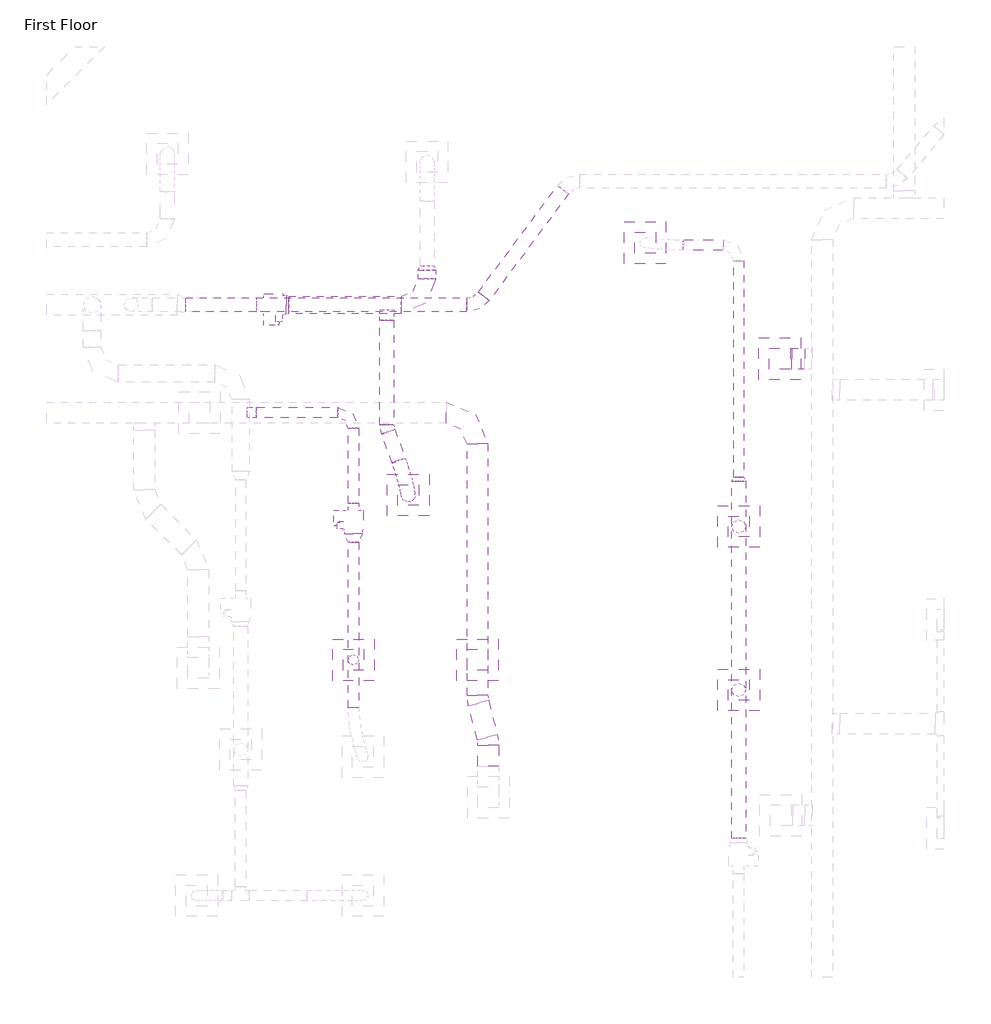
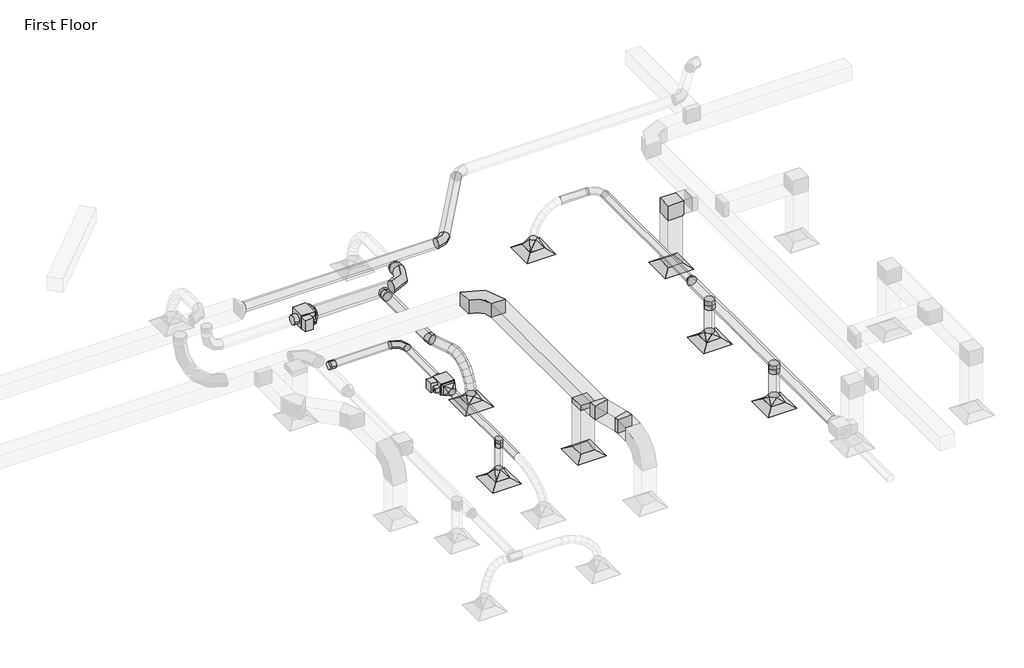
# One storey, part 24 of 61: 23 duct fittings, 22 duct segments, 7 air terminals, 2 proxies.
"""IFC4 building model written with IfcOpenShell, lengths in millimetres."""

from ifc_helpers import new_model, si_unit, point, frame, frame_2d, origin, place, context, project, spatial, polyline, circle_curve, ellipse_curve, trimmed, segment, composite_curve, outline, extrude, transform, mapped, element, save
from ifc_brep_helpers import plane_surface, cylinder_surface, advanced_brep
from components import m_exhaust_grill_er_600_x_600_face_300_x_300_connection_ff221211, m_vav_unit_single_duct_150_mm_ffdab17b, m_vav_unit_single_duct_200_mm_f9143229, m_rectangular_elbow_mitered_standard_8eee5933, m_rectangular_elbow_radius_1_5_w_86011e9f, m_rectangular_elbow_radius_1_5_w_669d0619, m_rectangular_takeoff_standard_c00386d1, m_rectangular_to_round_transition_angle_45_degree_8f201c83, m_rectangular_to_round_transition_angle_45_degree_66d46ab7, m_rectangular_to_round_transition_angle_45_degree_60daae35, m_rectangular_to_round_transition_angle_45_degree_2367f443, m_round_elbow_1_5_d_2e586196, m_round_elbow_1_5_d_4a9a621c, m_round_elbow_1_5_d_4faea411, m_round_elbow_1_5_d_a73345fc, m_round_takeoff_standard_2adb3d06, m_round_takeoff_standard_c62ca294, m_round_takeoff_standard_f7a00ffe, m_round_takeoff_standard_f13bc850, m_round_transition_angle_45_degree_6d7b59ce, m_round_transition_angle_45_degree_7939cf24

model = new_model("IFC4")

# Units and contexts
model_context = context("Model", 3, world=origin())
ifc_project = project(units=[si_unit("LENGTHUNIT", "METRE", prefix="MILLI")], contexts=[model_context])

# Site, building, storey
site = spatial("IfcSite", under=ifc_project)
building = spatial("IfcBuilding", under=site)
storey = spatial("IfcBuildingStorey", under=building, Name="First Floor", Elevation=0.0)

# Air terminals
placement = place(None, origin())
m_exhaust_grill_er_600_x_600_face_300_x_300_connection_shape = m_exhaust_grill_er_600_x_600_face_300_x_300_connection_ff221211(model_context)
element("IfcAirTerminal", 1, ObjectType="M_Return Register : RR-600 x 600 Face 300 x 300 Connection", at=placement, inside=storey, context=model_context, shape_type="MappedRepresentation", body=[
    mapped(m_exhaust_grill_er_600_x_600_face_300_x_300_connection_shape, transform((-16278.0820731, 22304.5020999, 2680.0), x_axis=(1.0, 0.0, 0.0), y_axis=(0.0, 1.0, 0.0), z_axis=(0.0, 0.0, 1.0))),
])
element("IfcAirTerminal", 2, ObjectType="M_Return Register : RR-600 x 600 Face 300 x 300 Connection", at=placement, inside=storey, context=model_context, shape_type="MappedRepresentation", body=[
    mapped(m_exhaust_grill_er_600_x_600_face_300_x_300_connection_shape, transform((-20628.0902372, 17971.044626, 2680.0), x_axis=(1.0, 0.0, 0.0), y_axis=(0.0, 1.0, 0.0), z_axis=(0.0, 0.0, 1.0))),
])
element("IfcAirTerminal", 3, ObjectType="M_Supply Diffuser : SD-600 x 600 Face 300 x 300 Connection", at=placement, inside=storey, context=model_context, shape_type="MappedRepresentation", body=[
    mapped(m_exhaust_grill_er_600_x_600_face_300_x_300_connection_shape, transform((-16867.9125198, 19890.025237, 2680.0), x_axis=(1.0, 0.0, 0.0), y_axis=(0.0, 1.0, 0.0), z_axis=(0.0, 0.0, 1.0))),
])
element("IfcAirTerminal", 4, ObjectType="M_Supply Diffuser : SD-600 x 600 Face 300 x 300 Connection", at=placement, inside=storey, context=model_context, shape_type="MappedRepresentation", body=[
    mapped(m_exhaust_grill_er_600_x_600_face_300_x_300_connection_shape, transform((-16867.9125198, 17538.0591456, 2680.0), x_axis=(1.0, 0.0, 0.0), y_axis=(0.0, 1.0, 0.0), z_axis=(0.0, 0.0, 1.0))),
])
element("IfcAirTerminal", 5, ObjectType="M_Supply Diffuser : SD-600 x 600 Face 300 x 300 Connection", at=placement, inside=storey, context=model_context, shape_type="MappedRepresentation", body=[
    mapped(m_exhaust_grill_er_600_x_600_face_300_x_300_connection_shape, transform((-18215.7086358, 23974.6354374, 2680.0), x_axis=(1.0, 0.0, 0.0), y_axis=(0.0, 1.0, 0.0), z_axis=(0.0, 0.0, 1.0))),
])
element("IfcAirTerminal", 6, ObjectType="M_Supply Diffuser : SD-600 x 600 Face 300 x 300 Connection", at=placement, inside=storey, context=model_context, shape_type="MappedRepresentation", body=[
    mapped(m_exhaust_grill_er_600_x_600_face_300_x_300_connection_shape, transform((-21623.6864926, 20342.9283714, 2680.0), x_axis=(1.0, 0.0, 0.0), y_axis=(0.0, 1.0, 0.0), z_axis=(0.0, 0.0, 1.0))),
])
element("IfcAirTerminal", 7, ObjectType="M_Supply Diffuser : SD-600 x 600 Face 300 x 300 Connection", at=placement, inside=storey, context=model_context, shape_type="MappedRepresentation", body=[
    mapped(m_exhaust_grill_er_600_x_600_face_300_x_300_connection_shape, transform((-22412.4486857, 17971.044626, 2680.0), x_axis=(1.0, 0.0, 0.0), y_axis=(0.0, 1.0, 0.0), z_axis=(0.0, 0.0, 1.0))),
])

# Proxies
m_vav_unit_single_duct_150_mm_shape = m_vav_unit_single_duct_150_mm_ffdab17b(model_context)
element("IfcBuildingElementProxy", 8, Name="M_VAV Unit - Single Duct : 150 mm", ObjectType="M_VAV Unit - Single Duct : 150 mm", at=placement, inside=storey, context=model_context, shape_type="MappedRepresentation", body=[
    mapped(m_vav_unit_single_duct_150_mm_shape, transform((-22412.4486857, 20126.0725928, 3500.0), x_axis=(0.0, -1.0000000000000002, 0.0), y_axis=(1.0000000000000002, 0.0, 0.0), z_axis=(0.0, 0.0, 1.0))),
])
m_vav_unit_single_duct_200_mm_shape = m_vav_unit_single_duct_200_mm_f9143229(model_context)
element("IfcBuildingElementProxy", 9, Name="M_VAV Unit - Single Duct : 200 mm", ObjectType="M_VAV Unit - Single Duct : 200 mm", at=placement, inside=storey, context=model_context, shape_type="MappedRepresentation", body=[
    mapped(m_vav_unit_single_duct_200_mm_shape, transform((-23705.4538316, 23079.8596581, 3500.0), x_axis=(1.0, 0.0, 0.0), y_axis=(0.0, 1.0, 0.0), z_axis=(0.0, 0.0, 1.0))),
])

# Duct fittings
m_rectangular_elbow_mitered_standard_shape = m_rectangular_elbow_mitered_standard_8eee5933(model_context)
element("IfcDuctFitting", 10, ObjectType="M_Rectangular Elbow - Mitered : Standard", at=placement, inside=storey, context=model_context, shape_type="MappedRepresentation", body=[
    mapped(m_rectangular_elbow_mitered_standard_shape, transform((-16278.0820731, 22304.5020999, 4000.0), x_axis=(0.0, 0.0, 1.0), y_axis=(1.0, 0.0, 0.0), z_axis=(0.0, 1.0, 0.0))),
])
m_rectangular_elbow_radius_1_5_w_shape = m_rectangular_elbow_radius_1_5_w_86011e9f(model_context)
element("IfcDuctFitting", 11, ObjectType="M_Rectangular Elbow - Radius : 1.5 W", at=placement, inside=storey, context=model_context, shape_type="MappedRepresentation", body=[
    mapped(m_rectangular_elbow_radius_1_5_w_shape, transform((-20628.0902372, 21527.5562922, 4000.0), x_axis=(0.0, 1.0, 0.0), y_axis=(-1.0, 0.0, 0.0), z_axis=(0.0, 0.0, 1.0))),
])
m_rectangular_elbow_radius_1_5_w_2_shape = m_rectangular_elbow_radius_1_5_w_669d0619(model_context)
element("IfcDuctFitting", 12, ObjectType="M_Rectangular Elbow - Radius : 1.5 W", at=placement, inside=storey, context=model_context, shape_type="MappedRepresentation", body=[
    mapped(m_rectangular_elbow_radius_1_5_w_2_shape, transform((-20470.7099363, 16801.4557159, 4000.0), x_axis=(0.0, 1.0, 0.0), y_axis=(-1.0, 0.0, 0.0), z_axis=(0.0, 0.0, 1.0))),
])
element("IfcDuctFitting", 13, ObjectType="M_Rectangular Elbow - Radius : 1.5 W", at=placement, inside=storey, context=model_context, shape_type="MappedRepresentation", body=[
    mapped(m_rectangular_elbow_radius_1_5_w_2_shape, transform((-20628.0902372, 17404.9884843, 4000.0), x_axis=(0.0, -1.0, 0.0), y_axis=(1.0, 0.0, 0.0), z_axis=(0.0, 0.0, 1.0))),
])
m_rectangular_takeoff_standard_shape = m_rectangular_takeoff_standard_c00386d1(model_context)
element("IfcDuctFitting", 14, ObjectType="M_Rectangular Takeoff : Standard", at=placement, inside=storey, context=model_context, shape_type="MappedRepresentation", body=[
    mapped(m_rectangular_takeoff_standard_shape, transform((-20628.0902372, 17971.044626, 3850.0), x_axis=(0.0, 0.0, -1.0), y_axis=(-1.0, 0.0, 0.0), z_axis=(0.0, 1.0, 0.0))),
])
m_rectangular_to_round_transition_angle_45_degree_shape = m_rectangular_to_round_transition_angle_45_degree_8f201c83(model_context)
element("IfcDuctFitting", 15, ObjectType="M_Rectangular to Round Transition - Angle : 45 Degree", at=placement, inside=storey, context=model_context, shape_type="MappedRepresentation", body=[
    mapped(m_rectangular_to_round_transition_angle_45_degree_shape, transform((-18215.7086358, 23974.6354374, 2781.6), x_axis=(0.0, 0.0, 1.0), y_axis=(1.0, 0.0, 0.0), z_axis=(0.0, 1.0, 0.0))),
])
element("IfcDuctFitting", 16, ObjectType="M_Rectangular to Round Transition - Angle : 45 Degree", at=placement, inside=storey, context=model_context, shape_type="MappedRepresentation", body=[
    mapped(m_rectangular_to_round_transition_angle_45_degree_shape, transform((-22412.4486857, 17971.044626, 2781.6), x_axis=(0.0, 0.0, 1.0), y_axis=(-1.0, 0.0, 0.0), z_axis=(0.0, -1.0, 0.0))),
])
m_rectangular_to_round_transition_angle_45_degree_2_shape = m_rectangular_to_round_transition_angle_45_degree_66d46ab7(model_context)
element("IfcDuctFitting", 17, ObjectType="M_Rectangular to Round Transition - Angle : 45 Degree", at=placement, inside=storey, context=model_context, shape_type="MappedRepresentation", body=[
    mapped(m_rectangular_to_round_transition_angle_45_degree_2_shape, transform((-22412.4486857, 19783.2725928, 3619.05), x_axis=(0.0, -1.0, 0.0), y_axis=(1.0, 0.0, 0.0), z_axis=(0.0, 0.0, 1.0))),
])
m_rectangular_to_round_transition_angle_45_degree_3_shape = m_rectangular_to_round_transition_angle_45_degree_60daae35(model_context)
element("IfcDuctFitting", 18, ObjectType="M_Rectangular to Round Transition - Angle : 45 Degree", at=placement, inside=storey, context=model_context, shape_type="MappedRepresentation", body=[
    mapped(m_rectangular_to_round_transition_angle_45_degree_3_shape, transform((-16867.9125198, 19890.025237, 2781.6), x_axis=(0.0, 0.0, 1.0), y_axis=(-1.0, 0.0, 0.0), z_axis=(0.0, -1.0, 0.0))),
])
element("IfcDuctFitting", 19, ObjectType="M_Rectangular to Round Transition - Angle : 45 Degree", at=placement, inside=storey, context=model_context, shape_type="MappedRepresentation", body=[
    mapped(m_rectangular_to_round_transition_angle_45_degree_3_shape, transform((-16867.9125198, 17538.0591456, 2781.6), x_axis=(0.0, 0.0, 1.0), y_axis=(-1.0, 0.0, 0.0), z_axis=(0.0, -1.0, 0.0))),
])
element("IfcDuctFitting", 20, ObjectType="M_Rectangular to Round Transition - Angle : 45 Degree", at=placement, inside=storey, context=model_context, shape_type="MappedRepresentation", body=[
    mapped(m_rectangular_to_round_transition_angle_45_degree_3_shape, transform((-21623.6864926, 20342.9283714, 2781.6), x_axis=(0.0, 0.0, 1.0), y_axis=(1.0, 0.0, 0.0), z_axis=(0.0, 1.0, 0.0))),
])
m_rectangular_to_round_transition_angle_45_degree_4_shape = m_rectangular_to_round_transition_angle_45_degree_2367f443(model_context)
element("IfcDuctFitting", 21, ObjectType="M_Rectangular to Round Transition - Angle : 45 Degree", at=placement, inside=storey, context=model_context, shape_type="MappedRepresentation", body=[
    mapped(m_rectangular_to_round_transition_angle_45_degree_4_shape, transform((-23375.6538316, 23079.8596581, 3644.05), x_axis=(1.0, 0.0, 0.0), y_axis=(0.0, 1.0, 0.0), z_axis=(0.0, 0.0, 1.0))),
])
m_round_elbow_1_5_d_shape = m_round_elbow_1_5_d_2e586196(model_context)
element("IfcDuctFitting", 22, ObjectType="M_Round Elbow : 1.5 D", at=placement, inside=storey, context=model_context, shape_type="MappedRepresentation", body=[
    mapped(m_round_elbow_1_5_d_shape, transform((-22411.5986857, 21528.2490504, 3609.5), x_axis=(0.0, 0.9999999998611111, -1.6666666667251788e-05), y_axis=(-1.0, 0.0, 0.0), z_axis=(0.0, 1.6666666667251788e-05, 0.9999999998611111))),
])
m_round_elbow_1_5_d_2_shape = m_round_elbow_1_5_d_4a9a621c(model_context)
element("IfcDuctFitting", 23, ObjectType="M_Round Elbow : 1.5 D", at=placement, inside=storey, context=model_context, shape_type="MappedRepresentation", body=[
    mapped(m_round_elbow_1_5_d_2_shape, transform((-21352.0106075, 23079.8596581, 3644.1), x_axis=(1.0, 0.0, 0.0), y_axis=(0.0, 1.0, 0.0), z_axis=(0.0, 0.0, 1.0))),
])
m_round_elbow_1_5_d_3_shape = m_round_elbow_1_5_d_4faea411(model_context)
element("IfcDuctFitting", 24, ObjectType="M_Round Elbow : 1.5 D", at=placement, inside=storey, context=model_context, shape_type="MappedRepresentation", body=[
    mapped(m_round_elbow_1_5_d_3_shape, transform((-21930.2677657, 21304.1237269, 3644.1), x_axis=(0.0, -1.0, 0.0), y_axis=(1.0, 0.0, 0.0), z_axis=(0.0, 0.0, 1.0))),
])
m_round_elbow_1_5_d_4_shape = m_round_elbow_1_5_d_a73345fc(model_context)
element("IfcDuctFitting", 25, ObjectType="M_Round Elbow : 1.5 D", at=placement, inside=storey, context=model_context, shape_type="MappedRepresentation", body=[
    mapped(m_round_elbow_1_5_d_4_shape, transform((-20628.0902372, 23080.5096581, 4279.0), x_axis=(1.0, 0.0, 0.0), y_axis=(0.0, 0.9999999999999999, 0.0), z_axis=(0.0, 0.0, 0.9999999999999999))),
])
m_round_takeoff_standard_shape = m_round_takeoff_standard_2adb3d06(model_context)
element("IfcDuctFitting", 26, ObjectType="M_Round Takeoff : Standard", at=placement, inside=storey, context=model_context, shape_type="MappedRepresentation", body=[
    mapped(m_round_takeoff_standard_shape, transform((-21930.2677657, 22954.8596581, 3644.1), x_axis=(0.0, -1.0, 0.0), y_axis=(-1.0, 0.0, 0.0), z_axis=(0.0, 0.0, -1.0))),
])
m_round_takeoff_standard_2_shape = m_round_takeoff_standard_c62ca294(model_context)
element("IfcDuctFitting", 27, ObjectType="M_Round Takeoff : Standard", at=placement, inside=storey, context=model_context, shape_type="MappedRepresentation", body=[
    mapped(m_round_takeoff_standard_2_shape, transform((-16867.9125198, 19890.025237, 3519.1), x_axis=(0.0, 0.0, -1.0), y_axis=(1.0, 0.0, 0.0), z_axis=(0.0, -1.0, 0.0))),
])
element("IfcDuctFitting", 28, ObjectType="M_Round Takeoff : Standard", at=placement, inside=storey, context=model_context, shape_type="MappedRepresentation", body=[
    mapped(m_round_takeoff_standard_2_shape, transform((-16867.9125198, 17538.0591456, 3519.1), x_axis=(0.0, 0.0, -1.0), y_axis=(1.0, 0.0, 0.0), z_axis=(0.0, -1.0, 0.0))),
])
m_round_takeoff_standard_3_shape = m_round_takeoff_standard_f7a00ffe(model_context)
element("IfcDuctFitting", 29, ObjectType="M_Round Takeoff : Standard", at=placement, inside=storey, context=model_context, shape_type="MappedRepresentation", body=[
    mapped(m_round_takeoff_standard_3_shape, transform((-22412.4486857, 17971.044626, 3544.1), x_axis=(0.0, 0.0, -1.0), y_axis=(1.0, 0.0, 0.0), z_axis=(0.0, -1.0, 0.0))),
])
m_round_takeoff_standard_4_shape = m_round_takeoff_standard_f13bc850(model_context)
element("IfcDuctFitting", 30, ObjectType="M_Round Takeoff : Standard", at=placement, inside=storey, context=model_context, shape_type="MappedRepresentation", body=[
    mapped(m_round_takeoff_standard_4_shape, transform((-23909.040372, 21528.2490504, 3609.5), x_axis=(1.0, 0.0, 0.0), y_axis=(0.0, -1.0, 0.0), z_axis=(0.0, 0.0, -1.0))),
])
m_round_transition_angle_45_degree_shape = m_round_transition_angle_45_degree_6d7b59ce(model_context)
element("IfcDuctFitting", 31, ObjectType="M_Round Transition - Angle : 45 Degree", at=placement, inside=storey, context=model_context, shape_type="MappedRepresentation", body=[
    mapped(m_round_transition_angle_45_degree_shape, transform((-16867.9125198, 20541.391812, 3619.1), x_axis=(0.0, 1.0, 0.0), y_axis=(-1.0, 0.0, 0.0), z_axis=(0.0, 0.0, 1.0))),
])
m_round_transition_angle_45_degree_2_shape = m_round_transition_angle_45_degree_7939cf24(model_context)
element("IfcDuctFitting", 32, ObjectType="M_Round Transition - Angle : 45 Degree", at=placement, inside=storey, context=model_context, shape_type="MappedRepresentation", body=[
    mapped(m_round_transition_angle_45_degree_2_shape, transform((-21352.0106075, 23579.8596581, 3644.1), x_axis=(0.0, 1.0, 0.0), y_axis=(-1.0, 0.0, 0.0), z_axis=(0.0, 0.0, 1.0))),
])

# Duct segments
element("IfcDuctSegment", 33, ObjectType="Flex - Round", at=placement, inside=storey, context=model_context, shape_type="AdvancedBrep", body=[
    advanced_brep(
    [(-21664.7474064, 20866.9547103, 3644.1), (-21765.084631, 20851.1302652, 3545.7027018), (-21853.7679817, 20801.6001226, 3644.1), (-21753.4307571, 20817.4245678, 3742.4972982), (-21629.0169093, 20763.6138531, 3624.2845455), (-21735.0743448, 20764.3335803, 3529.0595675), (-21818.9275207, 20700.8334557, 3624.7781426), (-21712.8700852, 20700.1137285, 3720.0031206), (-21527.822112, 20371.3720632, 2901.3222829), (-21595.2584046, 20247.3987434, 2910.4306527), (-21719.5508732, 20314.4846796, 2903.2990733), (-21652.1145806, 20438.4579994, 2894.1907036), (-21599.2349399, 20668.0477873, 3569.0317132), (-21713.4582808, 20694.970733, 3488.9564856), (-21790.3376687, 20609.0927236, 3571.7369795), (-21676.1143278, 20582.1697779, 3651.8122071), (-21575.442267, 20583.4163711, 3486.1823142), (-21694.3063326, 20626.8465461, 3422.2667362), (-21767.0978254, 20526.4277427, 3490.8126102), (-21648.2337597, 20482.9975677, 3554.7281882), (-21557.066167, 20510.9857139, 3382.833962), (-21678.4801334, 20564.4664974, 3333.2591874), (-21748.9208828, 20454.782078, 3388.5843317), (-21627.5069163, 20401.3012945, 3438.1591062), (-21543.5864143, 20452.1054141, 3265.8694143), (-21666.4457784, 20511.8997741, 3228.8364343), (-21735.4672349, 20396.0158054, 3271.8462967), (-21612.6078708, 20336.2214454, 3308.8792767), (-21534.5265922, 20408.2324581, 3142.1619034), (-21658.238916, 20472.1573476, 3116.7756772), (-21726.3534671, 20351.8816128, 3147.4021834), (-21602.6411433, 20287.9567233, 3172.7884096), (-21529.4297563, 20380.8680257, 3018.6684655), (-21653.636134, 20447.4454438, 3005.2528834), (-21721.1766921, 20324.0879949, 3021.9718662), (-21596.9703145, 20257.5105767, 3035.3874483)],
    [
        (0, 1, circle_curve(frame((-21759.257694, 20834.2774165, 3644.1), z_axis=(-0.3215357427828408, 0.929955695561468, 0.1783176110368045), x_axis=(0.9451028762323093, 0.3267729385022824, 0.0)), 100.0)),
        (1, 2, circle_curve(frame((-21759.257694, 20834.2774165, 3644.1), z_axis=(-0.3215357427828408, 0.929955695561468, 0.1783176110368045), x_axis=(0.9451028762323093, 0.3267729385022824, 0.0)), 100.0)),
        (2, 3, circle_curve(frame((-21759.257694, 20834.2774165, 3644.1), z_axis=(-0.3215357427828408, 0.929955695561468, 0.1783176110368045), x_axis=(0.9451028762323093, 0.3267729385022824, 0.0)), 100.0)),
        (3, 0, circle_curve(frame((-21759.257694, 20834.2774165, 3644.1), z_axis=(-0.3215357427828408, 0.929955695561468, 0.1783176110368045), x_axis=(0.9451028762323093, 0.3267729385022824, 0.0)), 100.0)),
        (0, 4),
        (4, 5, ellipse_curve(frame((-21723.972215, 20732.2236544, 3624.5313441), z_axis=(-0.2949246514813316, 0.8947823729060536, 0.33523716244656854), x_axis=(-0.18791958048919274, 0.2896755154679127, -0.9384957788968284)), 101.3463384, 100.0)),
        (5, 1),
        (5, 6, ellipse_curve(frame((-21723.972215, 20732.2236544, 3624.5313441), z_axis=(-0.2949246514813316, 0.8947823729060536, 0.33523716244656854), x_axis=(-0.18791958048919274, 0.2896755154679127, -0.9384957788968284)), 101.3463384, 100.0)),
        (6, 2),
        (6, 7, ellipse_curve(frame((-21723.972215, 20732.2236544, 3624.5313441), z_axis=(-0.2949246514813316, 0.8947823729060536, 0.33523716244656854), x_axis=(-0.18791958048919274, 0.2896755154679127, -0.9384957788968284)), 101.3463384, 100.0)),
        (7, 3),
        (7, 4, ellipse_curve(frame((-21723.972215, 20732.2236544, 3624.5313441), z_axis=(-0.2949246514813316, 0.8947823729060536, 0.33523716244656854), x_axis=(-0.18791958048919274, 0.2896755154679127, -0.9384957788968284)), 101.3463384, 100.0)),
        (8, 9, circle_curve(frame((-21623.6864926, 20342.9283714, 2902.3106781), z_axis=(0.013654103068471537, -0.08065145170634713, -0.9966488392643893), x_axis=(0.9586438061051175, 0.2844369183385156, -0.009883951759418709)), 100.0)),
        (9, 10, circle_curve(frame((-21623.6864926, 20342.9283714, 2902.3106781), z_axis=(0.013654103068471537, -0.08065145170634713, -0.9966488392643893), x_axis=(0.9586438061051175, 0.2844369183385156, -0.009883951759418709)), 100.0)),
        (10, 11, circle_curve(frame((-21623.6864926, 20342.9283714, 2902.3106781), z_axis=(0.013654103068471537, -0.08065145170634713, -0.9966488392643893), x_axis=(0.9586438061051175, 0.2844369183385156, -0.009883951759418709)), 100.0)),
        (11, 8, circle_curve(frame((-21623.6864926, 20342.9283714, 2902.3106781), z_axis=(0.013654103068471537, -0.08065145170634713, -0.9966488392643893), x_axis=(0.9586438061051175, 0.2844369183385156, -0.009883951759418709)), 100.0)),
        (4, 12),
        (12, 13, ellipse_curve(frame((-21694.7863043, 20638.5702555, 3570.3843464), z_axis=(-0.2305521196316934, 0.7743722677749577, 0.5892311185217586), x_axis=(-0.2523258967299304, 0.5372535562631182, -0.8047920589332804)), 100.801641, 100.0)),
        (13, 5),
        (13, 14, ellipse_curve(frame((-21694.7863043, 20638.5702555, 3570.3843464), z_axis=(-0.2305521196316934, 0.7743722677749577, 0.5892311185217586), x_axis=(-0.2523258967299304, 0.5372535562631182, -0.8047920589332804)), 100.801641, 100.0)),
        (14, 6),
        (14, 15, ellipse_curve(frame((-21694.7863043, 20638.5702555, 3570.3843464), z_axis=(-0.2305521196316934, 0.7743722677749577, 0.5892311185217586), x_axis=(-0.2523258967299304, 0.5372535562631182, -0.8047920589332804)), 100.801641, 100.0)),
        (15, 7),
        (15, 12, ellipse_curve(frame((-21694.7863043, 20638.5702555, 3570.3843464), z_axis=(-0.2305521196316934, 0.7743722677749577, 0.5892311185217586), x_axis=(-0.2523258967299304, 0.5372535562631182, -0.8047920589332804)), 100.801641, 100.0)),
        (12, 16),
        (16, 17, ellipse_curve(frame((-21671.2700462, 20554.9220569, 3488.4974622), z_axis=(-0.17129444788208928, 0.6371291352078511, 0.7514816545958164), x_axis=(-0.27904543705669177, 0.7001469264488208, -0.6572122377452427)), 100.4517836, 100.0)),
        (17, 13),
        (17, 18, ellipse_curve(frame((-21671.2700462, 20554.9220569, 3488.4974622), z_axis=(-0.17129444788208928, 0.6371291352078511, 0.7514816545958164), x_axis=(-0.27904543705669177, 0.7001469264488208, -0.6572122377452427)), 100.4517836, 100.0)),
        (18, 14),
        (18, 19, ellipse_curve(frame((-21671.2700462, 20554.9220569, 3488.4974622), z_axis=(-0.17129444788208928, 0.6371291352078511, 0.7514816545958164), x_axis=(-0.27904543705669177, 0.7001469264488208, -0.6572122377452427)), 100.4517836, 100.0)),
        (19, 15),
        (19, 16, ellipse_curve(frame((-21671.2700462, 20554.9220569, 3488.4974622), z_axis=(-0.17129444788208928, 0.6371291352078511, 0.7514816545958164), x_axis=(-0.27904543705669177, 0.7001469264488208, -0.6572122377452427)), 100.4517836, 100.0)),
        (16, 20),
        (20, 21, ellipse_curve(frame((-21652.9935249, 20482.883896, 3385.7091468), z_axis=(-0.12358985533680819, 0.5090349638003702, 0.851826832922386), x_axis=(-0.2785376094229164, 0.8061036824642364, -0.5221241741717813)), 100.2812204, 100.0)),
        (21, 17),
        (21, 22, ellipse_curve(frame((-21652.9935249, 20482.883896, 3385.7091468), z_axis=(-0.12358985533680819, 0.5090349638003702, 0.851826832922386), x_axis=(-0.2785376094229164, 0.8061036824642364, -0.5221241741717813)), 100.2812204, 100.0)),
        (22, 18),
        (22, 23, ellipse_curve(frame((-21652.9935249, 20482.883896, 3385.7091468), z_axis=(-0.12358985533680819, 0.5090349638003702, 0.851826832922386), x_axis=(-0.2785376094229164, 0.8061036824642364, -0.5221241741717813)), 100.2812204, 100.0)),
        (23, 19),
        (23, 20, ellipse_curve(frame((-21652.9935249, 20482.883896, 3385.7091468), z_axis=(-0.12358985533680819, 0.5090349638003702, 0.851826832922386), x_axis=(-0.2785376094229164, 0.8061036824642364, -0.5221241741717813)), 100.2812204, 100.0)),
        (20, 24),
        (24, 25, ellipse_curve(frame((-21639.5268246, 20424.0606097, 3268.8578555), z_axis=(-0.08580877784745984, 0.3911897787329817, 0.9163009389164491), x_axis=(-0.25908982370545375, 0.8792899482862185, -0.3996519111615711)), 100.2101152, 100.0)),
        (25, 21),
        (25, 26, ellipse_curve(frame((-21639.5268246, 20424.0606097, 3268.8578555), z_axis=(-0.08580877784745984, 0.3911897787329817, 0.9163009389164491), x_axis=(-0.25908982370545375, 0.8792899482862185, -0.3996519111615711)), 100.2101152, 100.0)),
        (26, 22),
        (26, 27, ellipse_curve(frame((-21639.5268246, 20424.0606097, 3268.8578555), z_axis=(-0.08580877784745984, 0.3911897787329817, 0.9163009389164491), x_axis=(-0.25908982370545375, 0.8792899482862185, -0.3996519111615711)), 100.2101152, 100.0)),
        (27, 23),
        (27, 24, ellipse_curve(frame((-21639.5268246, 20424.0606097, 3268.8578555), z_axis=(-0.08580877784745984, 0.3911897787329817, 0.9163009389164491), x_axis=(-0.25908982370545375, 0.8792899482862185, -0.3996519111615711)), 100.2101152, 100.0)),
        (24, 28),
        (28, 29, ellipse_curve(frame((-21630.4400297, 20380.0570355, 3144.7820434), z_axis=(-0.05466911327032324, 0.27535621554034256, 0.959786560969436), x_axis=(-0.22736090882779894, 0.9325408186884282, -0.2804899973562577)), 100.1983492, 100.0)),
        (29, 25),
        (29, 30, ellipse_curve(frame((-21630.4400297, 20380.0570355, 3144.7820434), z_axis=(-0.05466911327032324, 0.27535621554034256, 0.959786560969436), x_axis=(-0.22736090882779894, 0.9325408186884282, -0.2804899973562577)), 100.1983492, 100.0)),
        (30, 26),
        (30, 31, ellipse_curve(frame((-21630.4400297, 20380.0570355, 3144.7820434), z_axis=(-0.05466911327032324, 0.27535621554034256, 0.959786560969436), x_axis=(-0.22736090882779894, 0.9325408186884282, -0.2804899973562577)), 100.1983492, 100.0)),
        (31, 27),
        (31, 28, ellipse_curve(frame((-21630.4400297, 20380.0570355, 3144.7820434), z_axis=(-0.05466911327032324, 0.27535621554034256, 0.959786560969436), x_axis=(-0.22736090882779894, 0.9325408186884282, -0.2804899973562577)), 100.1983492, 100.0)),
        (28, 32),
        (32, 33, ellipse_curve(frame((-21625.3032242, 20352.4780103, 3020.3201659), z_axis=(-0.027024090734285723, 0.14877072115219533, 0.9885023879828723), x_axis=(-0.19045778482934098, 0.9699831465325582, -0.15119036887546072)), 100.2448659, 100.0)),
        (33, 29),
        (33, 34, ellipse_curve(frame((-21625.3032242, 20352.4780103, 3020.3201659), z_axis=(-0.027024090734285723, 0.14877072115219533, 0.9885023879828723), x_axis=(-0.19045778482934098, 0.9699831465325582, -0.15119036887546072)), 100.2448659, 100.0)),
        (34, 30),
        (34, 35, ellipse_curve(frame((-21625.3032242, 20352.4780103, 3020.3201659), z_axis=(-0.027024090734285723, 0.14877072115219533, 0.9885023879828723), x_axis=(-0.19045778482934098, 0.9699831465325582, -0.15119036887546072)), 100.2448659, 100.0)),
        (35, 31),
        (35, 32, ellipse_curve(frame((-21625.3032242, 20352.4780103, 3020.3201659), z_axis=(-0.027024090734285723, 0.14877072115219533, 0.9885023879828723), x_axis=(-0.19045778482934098, 0.9699831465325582, -0.15119036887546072)), 100.2448659, 100.0)),
        (32, 8),
        (11, 33),
        (10, 34),
        (9, 35),
    ],
    [
        plane_surface(frame((-21759.257694, 20853.1091931, 3545.889185), z_axis=(-0.3215357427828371, 0.9299556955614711, 0.1783176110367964), x_axis=(0.9468974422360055, 0.31578287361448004, 0.06055089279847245))),
        cylinder_surface(frame((-21759.257694, 20834.2774165, 3644.1), z_axis=(-0.32153574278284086, 0.9299556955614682, 0.17831761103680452), x_axis=(0.9451028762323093, 0.3267729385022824, 0.0)), 100.0),
        plane_surface(frame((-21623.6864926, 20442.6025471, 2894.244781), z_axis=(0.013654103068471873, -0.08065145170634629, -0.9966488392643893), x_axis=(0.9999067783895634, 0.0011013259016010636, 0.013609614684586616))),
        cylinder_surface(frame((-21723.972215, 20732.2236544, 3624.5313441), z_axis=(-0.26047768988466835, 0.8358355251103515, 0.483249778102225), x_axis=(0.9531581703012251, 0.30233369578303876, -0.00915635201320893)), 100.0),
        cylinder_surface(frame((-21694.7863043, 20638.5702555, 3570.3843464), z_axis=(-0.19695954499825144, 0.700592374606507, 0.6858405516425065), x_axis=(0.9572947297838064, 0.2884399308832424, -0.019728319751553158)), 100.0),
        cylinder_surface(frame((-21671.2700462, 20554.9220569, 3488.4974622), z_axis=(-0.14408855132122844, 0.5679348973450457, 0.8103631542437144), x_axis=(0.958996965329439, 0.2821084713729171, -0.02719615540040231)), 100.0),
        cylinder_surface(frame((-21652.9935249, 20482.883896, 3385.7091468), z_axis=(-0.10239798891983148, 0.44728003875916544, 0.8885129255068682), x_axis=(0.9594701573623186, 0.28015951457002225, -0.030457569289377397)), 100.0),
        cylinder_surface(frame((-21639.5268246, 20424.0606097, 3268.8578555), z_axis=(-0.06885972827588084, 0.3334590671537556, 0.940246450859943), x_axis=(0.9593596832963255, 0.2806631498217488, -0.02927788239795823)), 100.0),
        cylinder_surface(frame((-21630.4400297, 20380.0570355, 3144.7820434), z_axis=(-0.040262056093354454, 0.2161631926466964, 0.975526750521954), x_axis=(0.9590026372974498, 0.28246151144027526, -0.023009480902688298)), 100.0),
        cylinder_surface(frame((-21625.3032242, 20352.4780103, 3020.3201659), z_axis=(-0.013654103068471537, 0.08065145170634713, 0.9966488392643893), x_axis=(0.9586438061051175, 0.2844369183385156, -0.009883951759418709)), 100.0),
    ],
    [
        (0, [[1, 2, 3, 4]]),
        (1, [[-1, 5, 6, 7]]),
        (1, [[-2, -7, 8, 9]]),
        (1, [[-3, -9, 10, 11]]),
        (1, [[-4, -11, 12, -5]]),
        (2, [[13, 14, 15, 16]]),
        (3, [[-6, 17, 18, 19]]),
        (3, [[-8, -19, 20, 21]]),
        (3, [[-10, -21, 22, 23]]),
        (3, [[-12, -23, 24, -17]]),
        (4, [[-18, 25, 26, 27]]),
        (4, [[-20, -27, 28, 29]]),
        (4, [[-22, -29, 30, 31]]),
        (4, [[-24, -31, 32, -25]]),
        (5, [[-26, 33, 34, 35]]),
        (5, [[-28, -35, 36, 37]]),
        (5, [[-30, -37, 38, 39]]),
        (5, [[-32, -39, 40, -33]]),
        (6, [[-34, 41, 42, 43]]),
        (6, [[-36, -43, 44, 45]]),
        (6, [[-38, -45, 46, 47]]),
        (6, [[-40, -47, 48, -41]]),
        (7, [[-42, 49, 50, 51]]),
        (7, [[-44, -51, 52, 53]]),
        (7, [[-46, -53, 54, 55]]),
        (7, [[-48, -55, 56, -49]]),
        (8, [[-50, 57, 58, 59]]),
        (8, [[-52, -59, 60, 61]]),
        (8, [[-54, -61, 62, 63]]),
        (8, [[-56, -63, 64, -57]]),
        (9, [[-58, 65, -16, 66]]),
        (9, [[-60, -66, -15, 67]]),
        (9, [[-62, -67, -14, 68]]),
        (9, [[-64, -68, -13, -65]]),
    ],
),
])
element("IfcDuctSegment", 34, ObjectType="Mitered Elbows / Taps", at=placement, inside=storey, context=model_context, shape_type="SweptSolid", body=[
    extrude(outline(polyline([(-16103.0820731, 22154.5020999), (-16103.0820731, 22454.5020999), (-15915.3877031, 22454.5020999), (-15915.3877031, 22154.5020999), (-16103.0820731, 22154.5020999)])), frame((0.0, 0.0, 3850.0), z_axis=(0.0, 0.0, 1.0), x_axis=(1.0, 0.0, 0.0)), (0.0, 0.0, 1.0), 300.0),
])
element("IfcDuctSegment", 35, ObjectType="Mitered Elbows / Taps", at=placement, inside=storey, context=model_context, shape_type="SweptSolid", body=[
    extrude(outline(polyline([(-16128.0820731, 22454.5020999), (-16128.0820731, 22154.5020999), (-16428.0820731, 22154.5020999), (-16428.0820731, 22454.5020999), (-16128.0820731, 22454.5020999)])), frame((0.0, 0.0, 2781.6), z_axis=(0.0, 0.0, 1.0), x_axis=(1.0, 0.0, 0.0)), (0.0, 0.0, 1.0), 1043.4),
])
element("IfcDuctSegment", 36, ObjectType="Radius Elbows / Taps", at=placement, inside=storey, context=model_context, shape_type="SweptSolid", body=[
    extrude(outline(polyline([(-20778.0902372, 21077.5562922), (-20478.0902372, 21077.5562922), (-20478.0902372, 17462.6957697), (-20778.0902372, 17462.6957697), (-20778.0902372, 21077.5562922)])), frame((0.0, 0.0, 3850.0), z_axis=(0.0, 0.0, 1.0), x_axis=(1.0, 0.0, 0.0)), (0.0, 0.0, 1.0), 300.0),
])
element("IfcDuctSegment", 37, ObjectType="Radius Elbows / Taps", at=placement, inside=storey, context=model_context, shape_type="SweptSolid", body=[
    extrude(outline(polyline([(-20340.124766, 16895.144798), (-20630.4173511, 16819.4466143), (-20758.6754074, 17311.2994022), (-20468.3828223, 17386.997586), (-20340.124766, 16895.144798)])), frame((0.0, 0.0, 3850.0), z_axis=(0.0, 0.0, 1.0), x_axis=(1.0, 0.0, 0.0)), (0.0, 0.0, 1.0), 300.0),
])
element("IfcDuctSegment", 38, ObjectType="Radius Elbows / Taps", at=placement, inside=storey, context=model_context, shape_type="SweptSolid", body=[
    extrude(outline(polyline([(-20320.7099363, 16443.554641), (-20620.7099363, 16443.554641), (-20620.7099363, 16743.7484305), (-20320.7099363, 16743.7484305), (-20320.7099363, 16443.554641)])), frame((0.0, 0.0, 3850.0), z_axis=(0.0, 0.0, 1.0), x_axis=(1.0, 0.0, 0.0)), (0.0, 0.0, 1.0), 300.0),
])
element("IfcDuctSegment", 39, ObjectType="Radius Elbows / Taps", at=placement, inside=storey, context=model_context, shape_type="SweptSolid", body=[
    extrude(outline(polyline([(-20478.0902372, 17821.044626), (-20778.0902372, 17821.044626), (-20778.0902372, 18121.044626), (-20478.0902372, 18121.044626), (-20478.0902372, 17821.044626)])), frame((0.0, 0.0, 2781.6), z_axis=(0.0, 0.0, 1.0), x_axis=(1.0, 0.0, 0.0)), (0.0, 0.0, 1.0), 968.4),
])
element("IfcDuctSegment", 40, ObjectType="Taps", at=placement, inside=storey, context=model_context, shape_type="SweptSolid", body=[
    extrude(outline(composite_curve([segment(trimmed(circle_curve(frame_2d((3619.1, -16867.9125198)), 100.0), [point((3619.1, -16767.9125198))], [point((3719.1, -16867.9125198))], False, "CARTESIAN"), True, "CONTINUOUS"), segment(trimmed(circle_curve(frame_2d((3619.1, -16867.9125198)), 100.0), [point((3719.1, -16867.9125198))], [point((3619.1, -16967.9125198))], False, "CARTESIAN"), True, "CONTINUOUS"), segment(trimmed(circle_curve(frame_2d((3619.1, -16867.9125198)), 100.0), [point((3619.1, -16967.9125198))], [point((3519.1, -16867.9125198))], False, "CARTESIAN"), True, "CONTINUOUS"), segment(trimmed(circle_curve(frame_2d((3619.1, -16867.9125198)), 100.0), [point((3519.1, -16867.9125198))], [point((3619.1, -16767.9125198))], False, "CARTESIAN"), True, "CONTINUOUS")], self_intersect=False)), frame((0.0, 15401.747151, 0.0), z_axis=(0.0, 1.0, 0.0), x_axis=(0.0, 0.0, 1.0)), (0.0, 0.0, 1.0), 5139.6446609),
])
element("IfcDuctSegment", 41, ObjectType="Taps", at=placement, inside=storey, context=model_context, shape_type="SweptSolid", body=[
    extrude(outline(composite_curve([segment(trimmed(circle_curve(frame_2d((3619.1, -16867.9125198)), 75.0), [point((3619.1, -16792.9125198))], [point((3694.1, -16867.9125198))], False, "CARTESIAN"), True, "CONTINUOUS"), segment(trimmed(circle_curve(frame_2d((3619.1, -16867.9125198)), 75.0), [point((3694.1, -16867.9125198))], [point((3619.1, -16942.9125198))], False, "CARTESIAN"), True, "CONTINUOUS"), segment(trimmed(circle_curve(frame_2d((3619.1, -16867.9125198)), 75.0), [point((3619.1, -16942.9125198))], [point((3544.1, -16867.9125198))], False, "CARTESIAN"), True, "CONTINUOUS"), segment(trimmed(circle_curve(frame_2d((3619.1, -16867.9125198)), 75.0), [point((3544.1, -16867.9125198))], [point((3619.1, -16792.9125198))], False, "CARTESIAN"), True, "CONTINUOUS")], self_intersect=False)), frame((0.0, 20601.747151, 0.0), z_axis=(0.0, 1.0, 0.0), x_axis=(0.0, 0.0, 1.0)), (0.0, 0.0, 1.0), 3114.6446609),
])
element("IfcDuctSegment", 42, ObjectType="Taps", at=placement, inside=storey, context=model_context, shape_type="SweptSolid", body=[
    extrude(outline(composite_curve([segment(trimmed(circle_curve(frame_2d((23941.391812, 3619.1)), 75.0), [point((24016.391812, 3619.1))], [point((23941.391812, 3544.1))], False, "CARTESIAN"), True, "CONTINUOUS"), segment(trimmed(circle_curve(frame_2d((23941.391812, 3619.1)), 75.0), [point((23941.391812, 3544.1))], [point((23866.391812, 3619.1))], False, "CARTESIAN"), True, "CONTINUOUS"), segment(trimmed(circle_curve(frame_2d((23941.391812, 3619.1)), 75.0), [point((23866.391812, 3619.1))], [point((23941.391812, 3694.1))], False, "CARTESIAN"), True, "CONTINUOUS"), segment(trimmed(circle_curve(frame_2d((23941.391812, 3619.1)), 75.0), [point((23941.391812, 3694.1))], [point((24016.391812, 3619.1))], False, "CARTESIAN"), True, "CONTINUOUS")], self_intersect=False)), frame((-17667.9125198, 0.0, 0.0), z_axis=(1.0, 0.0, 0.0), x_axis=(0.0, 1.0, 0.0)), (0.0, 0.0, 1.0), 575.0),
])
element("IfcDuctSegment", 43, ObjectType="Taps", at=placement, inside=storey, context=model_context, shape_type="SweptSolid", body=[
    extrude(outline(composite_curve([segment(trimmed(circle_curve(frame_2d((-16867.9125198, 19890.025237)), 100.0), [point((-16767.9125198, 19890.025237))], [point((-16867.9125198, 19790.025237))], False, "CARTESIAN"), True, "CONTINUOUS"), segment(trimmed(circle_curve(frame_2d((-16867.9125198, 19890.025237)), 100.0), [point((-16867.9125198, 19790.025237))], [point((-16967.9125198, 19890.025237))], False, "CARTESIAN"), True, "CONTINUOUS"), segment(trimmed(circle_curve(frame_2d((-16867.9125198, 19890.025237)), 100.0), [point((-16967.9125198, 19890.025237))], [point((-16867.9125198, 19990.025237))], False, "CARTESIAN"), True, "CONTINUOUS"), segment(trimmed(circle_curve(frame_2d((-16867.9125198, 19890.025237)), 100.0), [point((-16867.9125198, 19990.025237))], [point((-16767.9125198, 19890.025237))], False, "CARTESIAN"), True, "CONTINUOUS")], self_intersect=False)), frame((0.0, 0.0, 2902.3106781), z_axis=(0.0, 0.0, 1.0), x_axis=(1.0, 0.0, 0.0)), (0.0, 0.0, 1.0), 516.7893219),
])
element("IfcDuctSegment", 44, ObjectType="Taps", at=placement, inside=storey, context=model_context, shape_type="SweptSolid", body=[
    extrude(outline(composite_curve([segment(trimmed(circle_curve(frame_2d((-16867.9125198, 17538.0591456)), 100.0), [point((-16767.9125198, 17538.0591456))], [point((-16867.9125198, 17438.0591456))], False, "CARTESIAN"), True, "CONTINUOUS"), segment(trimmed(circle_curve(frame_2d((-16867.9125198, 17538.0591456)), 100.0), [point((-16867.9125198, 17438.0591456))], [point((-16967.9125198, 17538.0591456))], False, "CARTESIAN"), True, "CONTINUOUS"), segment(trimmed(circle_curve(frame_2d((-16867.9125198, 17538.0591456)), 100.0), [point((-16967.9125198, 17538.0591456))], [point((-16867.9125198, 17638.0591456))], False, "CARTESIAN"), True, "CONTINUOUS"), segment(trimmed(circle_curve(frame_2d((-16867.9125198, 17538.0591456)), 100.0), [point((-16867.9125198, 17638.0591456))], [point((-16767.9125198, 17538.0591456))], False, "CARTESIAN"), True, "CONTINUOUS")], self_intersect=False)), frame((0.0, 0.0, 2902.3106781), z_axis=(0.0, 0.0, 1.0), x_axis=(1.0, 0.0, 0.0)), (0.0, 0.0, 1.0), 516.7893219),
])
element("IfcDuctSegment", 45, ObjectType="Taps", at=placement, inside=storey, context=model_context, shape_type="SweptSolid", body=[
    extrude(outline(composite_curve([segment(trimmed(circle_curve(frame_2d((3619.1, -22412.4486857)), 75.0), [point((3619.1, -22487.4486857))], [point((3544.1, -22412.4486857))], False, "CARTESIAN"), True, "CONTINUOUS"), segment(trimmed(circle_curve(frame_2d((3619.1, -22412.4486857)), 75.0), [point((3544.1, -22412.4486857))], [point((3619.1, -22337.4486857))], False, "CARTESIAN"), True, "CONTINUOUS"), segment(trimmed(circle_curve(frame_2d((3619.1, -22412.4486857)), 75.0), [point((3619.1, -22337.4486857))], [point((3694.1, -22412.4486857))], False, "CARTESIAN"), True, "CONTINUOUS"), segment(trimmed(circle_curve(frame_2d((3619.1, -22412.4486857)), 75.0), [point((3694.1, -22412.4486857))], [point((3619.1, -22487.4486857))], False, "CARTESIAN"), True, "CONTINUOUS")], self_intersect=False)), frame((0.0, 17283.2725928, 0.0), z_axis=(0.0, 1.0, 0.0), x_axis=(0.0, 0.0, 1.0)), (0.0, 0.0, 1.0), 2379.2893219),
])
element("IfcDuctSegment", 46, ObjectType="Taps", at=placement, inside=storey, context=model_context, shape_type="SweptSolid", body=[
    extrude(outline(composite_curve([segment(trimmed(circle_curve(frame_2d((-22412.4486857, 17971.044626)), 75.0), [point((-22337.4486857, 17971.044626))], [point((-22412.4486857, 17896.044626))], False, "CARTESIAN"), True, "CONTINUOUS"), segment(trimmed(circle_curve(frame_2d((-22412.4486857, 17971.044626)), 75.0), [point((-22412.4486857, 17896.044626))], [point((-22487.4486857, 17971.044626))], False, "CARTESIAN"), True, "CONTINUOUS"), segment(trimmed(circle_curve(frame_2d((-22412.4486857, 17971.044626)), 75.0), [point((-22487.4486857, 17971.044626))], [point((-22412.4486857, 18046.044626))], False, "CARTESIAN"), True, "CONTINUOUS"), segment(trimmed(circle_curve(frame_2d((-22412.4486857, 17971.044626)), 75.0), [point((-22412.4486857, 18046.044626))], [point((-22337.4486857, 17971.044626))], False, "CARTESIAN"), True, "CONTINUOUS")], self_intersect=False)), frame((0.0, 0.0, 2962.6660172), z_axis=(0.0, 0.0, 1.0), x_axis=(1.0, 0.0, 0.0)), (0.0, 0.0, 1.0), 481.4339828),
])
element("IfcDuctSegment", 47, ObjectType="Taps", at=placement, inside=storey, context=model_context, shape_type="SweptSolid", body=[
    extrude(outline(composite_curve([segment(trimmed(circle_curve(frame_2d((23079.8596581, 3644.1)), 125.0), [point((22954.8596581, 3644.1))], [point((23079.8596581, 3769.1))], False, "CARTESIAN"), True, "CONTINUOUS"), segment(trimmed(circle_curve(frame_2d((23079.8596581, 3644.1)), 125.0), [point((23079.8596581, 3769.1))], [point((23204.8596581, 3644.1))], False, "CARTESIAN"), True, "CONTINUOUS"), segment(trimmed(circle_curve(frame_2d((23079.8596581, 3644.1)), 125.0), [point((23204.8596581, 3644.1))], [point((23079.8596581, 3519.1))], False, "CARTESIAN"), True, "CONTINUOUS"), segment(trimmed(circle_curve(frame_2d((23079.8596581, 3644.1)), 125.0), [point((23079.8596581, 3519.1))], [point((22954.8596581, 3644.1))], False, "CARTESIAN"), True, "CONTINUOUS")], self_intersect=False)), frame((-23345.4761621, 0.0, 0.0), z_axis=(1.0, 0.0, 0.0), x_axis=(0.0, 1.0, 0.0)), (0.0, 0.0, 1.0), 1618.4655545),
])
element("IfcDuctSegment", 48, ObjectType="Taps", at=placement, inside=storey, context=model_context, shape_type="SweptSolid", body=[
    extrude(outline(composite_curve([segment(trimmed(circle_curve(frame_2d((3644.1, -21352.0106075)), 125.0), [point((3644.1, -21227.0106075))], [point((3769.1, -21352.0106075))], False, "CARTESIAN"), True, "CONTINUOUS"), segment(trimmed(circle_curve(frame_2d((3644.1, -21352.0106075)), 125.0), [point((3769.1, -21352.0106075))], [point((3644.1, -21477.0106075))], False, "CARTESIAN"), True, "CONTINUOUS"), segment(trimmed(circle_curve(frame_2d((3644.1, -21352.0106075)), 125.0), [point((3644.1, -21477.0106075))], [point((3519.1, -21352.0106075))], False, "CARTESIAN"), True, "CONTINUOUS"), segment(trimmed(circle_curve(frame_2d((3644.1, -21352.0106075)), 125.0), [point((3519.1, -21352.0106075))], [point((3644.1, -21227.0106075))], False, "CARTESIAN"), True, "CONTINUOUS")], self_intersect=False)), frame((0.0, 23454.8596581, 0.0), z_axis=(0.0, 1.0, 0.0), x_axis=(0.0, 0.0, 1.0)), (0.0, 0.0, 1.0), 125.0),
])
element("IfcDuctSegment", 49, ObjectType="Taps", at=placement, inside=storey, context=model_context, shape_type="SweptSolid", body=[
    extrude(outline(composite_curve([segment(trimmed(circle_curve(frame_2d((3644.1, -21930.2677657)), 100.0), [point((3644.1, -22030.2677657))], [point((3544.1, -21930.2677657))], False, "CARTESIAN"), True, "CONTINUOUS"), segment(trimmed(circle_curve(frame_2d((3644.1, -21930.2677657)), 100.0), [point((3544.1, -21930.2677657))], [point((3644.1, -21830.2677657))], False, "CARTESIAN"), True, "CONTINUOUS"), segment(trimmed(circle_curve(frame_2d((3644.1, -21930.2677657)), 100.0), [point((3644.1, -21830.2677657))], [point((3744.1, -21930.2677657))], False, "CARTESIAN"), True, "CONTINUOUS"), segment(trimmed(circle_curve(frame_2d((3644.1, -21930.2677657)), 100.0), [point((3744.1, -21930.2677657))], [point((3644.1, -22030.2677657))], False, "CARTESIAN"), True, "CONTINUOUS")], self_intersect=False)), frame((0.0, 21357.0218211, 0.0), z_axis=(0.0, 1.0, 0.0), x_axis=(0.0, 0.0, 1.0)), (0.0, 0.0, 1.0), 1497.8378371),
])
element("IfcDuctSegment", 50, ObjectType="Taps", at=placement, inside=storey, context=model_context, shape_type="SweptSolid", body=[
    extrude(outline(composite_curve([segment(trimmed(circle_curve(frame_2d((0.0, -100.0)), 100.0), [point((-100.0, -100.0))], [point((0.0, 0.0))], False, "CARTESIAN"), True, "CONTINUOUS"), segment(trimmed(circle_curve(frame_2d((0.0, -100.0)), 100.0), [point((0.0, 0.0))], [point((99.9999999, -100.0))], False, "CARTESIAN"), True, "CONTINUOUS"), segment(trimmed(circle_curve(frame_2d((0.0, -100.0)), 100.0), [point((99.9999999, -100.0))], [point((0.0, -200.0))], False, "CARTESIAN"), True, "CONTINUOUS"), segment(trimmed(circle_curve(frame_2d((0.0, -100.0)), 100.0), [point((0.0, -200.0))], [point((-100.0, -100.0))], False, "CARTESIAN"), True, "CONTINUOUS")], self_intersect=False)), frame((-21759.257694, 20834.2774165, 3544.1), z_axis=(-0.34202014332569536, 0.9396926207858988, 0.0), x_axis=(0.9396926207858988, 0.34202014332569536, 0.0)), (0.0, 0.0, 1.0), 447.1019058),
])
element("IfcDuctSegment", 51, ObjectType="Taps", at=placement, inside=storey, context=model_context, shape_type="SweptSolid", body=[
    extrude(outline(composite_curve([segment(trimmed(circle_curve(frame_2d((0.0, -75.0)), 75.0), [point((0.0, -150.0))], [point((-75.0, -75.0))], False, "CARTESIAN"), True, "CONTINUOUS"), segment(trimmed(circle_curve(frame_2d((0.0, -75.0)), 75.0), [point((-75.0, -75.0))], [point((0.0, 0.0))], False, "CARTESIAN"), True, "CONTINUOUS"), segment(trimmed(circle_curve(frame_2d((0.0, -75.0)), 75.0), [point((0.0, 0.0))], [point((75.0, -75.0))], False, "CARTESIAN"), True, "CONTINUOUS"), segment(trimmed(circle_curve(frame_2d((0.0, -75.0)), 75.0), [point((75.0, -75.0))], [point((0.0, -150.0))], False, "CARTESIAN"), True, "CONTINUOUS")], self_intersect=False)), frame((-22486.5986857, 21303.2490505, 3609.50375), z_axis=(0.0, -0.9999999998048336, 1.9756847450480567e-05), x_axis=(0.0, 1.9756847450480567e-05, 0.9999999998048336)), (0.0, 0.0, 1.0), 1075.5764579),
])
element("IfcDuctSegment", 52, ObjectType="Taps", at=placement, inside=storey, context=model_context, shape_type="SweptSolid", body=[
    extrude(outline(composite_curve([segment(trimmed(circle_curve(frame_2d((21528.2490504, 3609.5)), 75.0), [point((21453.2490504, 3609.5))], [point((21528.2490504, 3684.5))], False, "CARTESIAN"), True, "CONTINUOUS"), segment(trimmed(circle_curve(frame_2d((21528.2490504, 3609.5)), 75.0), [point((21528.2490504, 3684.5))], [point((21603.2490504, 3609.5))], False, "CARTESIAN"), True, "CONTINUOUS"), segment(trimmed(circle_curve(frame_2d((21528.2490504, 3609.5)), 75.0), [point((21603.2490504, 3609.5))], [point((21528.2490504, 3534.5))], False, "CARTESIAN"), True, "CONTINUOUS"), segment(trimmed(circle_curve(frame_2d((21528.2490504, 3609.5)), 75.0), [point((21528.2490504, 3534.5))], [point((21453.2490504, 3609.5))], False, "CARTESIAN"), True, "CONTINUOUS")], self_intersect=False)), frame((-23809.040372, 0.0, 0.0), z_axis=(1.0, 0.0, 0.0), x_axis=(0.0, 1.0, 0.0)), (0.0, 0.0, 1.0), 1172.4416863),
])
element("IfcDuctSegment", 53, ObjectType="Taps", at=placement, inside=storey, context=model_context, shape_type="SweptSolid", body=[
    extrude(outline(composite_curve([segment(trimmed(circle_curve(frame_2d((0.0, -100.0)), 100.0), [point((-100.0, -100.0))], [point((0.0, 0.0))], False, "CARTESIAN"), True, "CONTINUOUS"), segment(trimmed(circle_curve(frame_2d((0.0, -100.0)), 100.0), [point((0.0, 0.0))], [point((100.0, -100.0))], False, "CARTESIAN"), True, "CONTINUOUS"), segment(trimmed(circle_curve(frame_2d((0.0, -100.0)), 100.0), [point((100.0, -100.0))], [point((0.0, -200.0))], False, "CARTESIAN"), True, "CONTINUOUS"), segment(trimmed(circle_curve(frame_2d((0.0, -100.0)), 100.0), [point((0.0, -200.0))], [point((-100.0, -100.0))], False, "CARTESIAN"), True, "CONTINUOUS")], self_intersect=False)), frame((-20538.1192296, 23201.3700399, 4179.0), z_axis=(0.5971320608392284, 0.802142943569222, 0.0), x_axis=(0.802142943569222, -0.5971320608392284, 0.0)), (0.0, 0.0, 1.0), 1913.7036336),
])
element("IfcDuctSegment", 54, ObjectType="Taps", at=placement, inside=storey, context=model_context, shape_type="SweptSolid", body=[
    extrude(outline(composite_curve([segment(trimmed(circle_curve(frame_2d((23080.5096581, 4279.0)), 100.0), [point((23180.5096581, 4279.0))], [point((23080.5096581, 4179.0))], False, "CARTESIAN"), True, "CONTINUOUS"), segment(trimmed(circle_curve(frame_2d((23080.5096581, 4279.0)), 100.0), [point((23080.5096581, 4179.0))], [point((22980.5096581, 4279.0))], False, "CARTESIAN"), True, "CONTINUOUS"), segment(trimmed(circle_curve(frame_2d((23080.5096581, 4279.0)), 100.0), [point((22980.5096581, 4279.0))], [point((23080.5096581, 4379.0))], False, "CARTESIAN"), True, "CONTINUOUS"), segment(trimmed(circle_curve(frame_2d((23080.5096581, 4279.0)), 100.0), [point((23080.5096581, 4379.0))], [point((23180.5096581, 4279.0))], False, "CARTESIAN"), True, "CONTINUOUS")], self_intersect=False)), frame((-24828.0902372, 0.0, 0.0), z_axis=(1.0, 0.0, 0.0), x_axis=(0.0, 1.0, 0.0)), (0.0, 0.0, 1.0), 4049.3281245),
])

save(model, "model.ifc")
